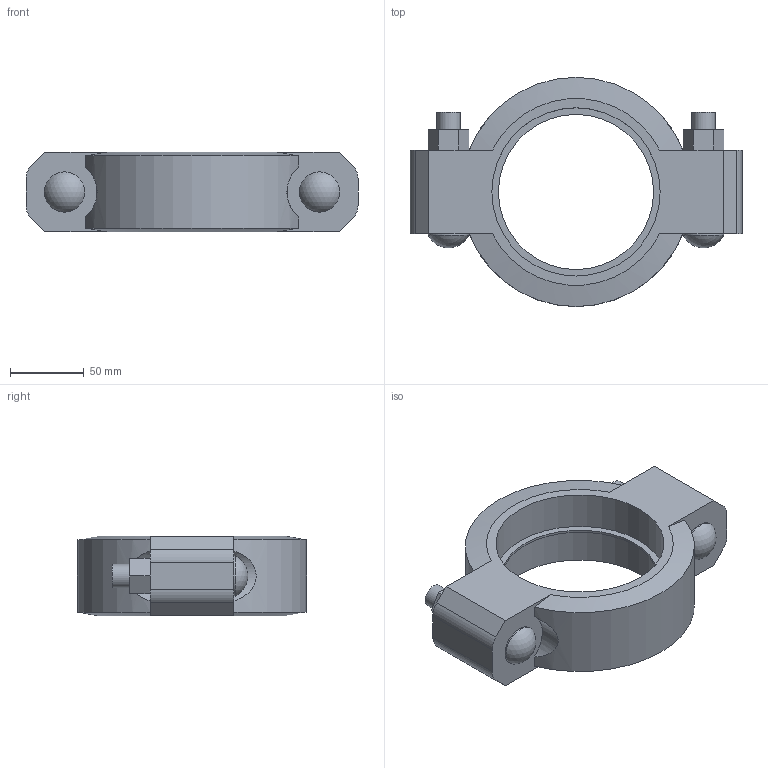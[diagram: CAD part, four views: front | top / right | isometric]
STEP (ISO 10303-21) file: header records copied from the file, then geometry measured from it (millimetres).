
FILE_DESCRIPTION(/* description */ ('Victaulic Standard Flexible Coupling Style 77','CAx-IF Rec.Pracs.---Representation and Presentation of Product Manufacturing Information (PMI)---4.0---2014-10-13'),/* implementation_level */ '2;1');
FILE_NAME(/* name */ 'C:\Users\Vjadhav\Desktop\CAD for Inventor\1\Coupling bolt thickness\77\Victaulic_IPS_Coupling Flexible_Style 77 (OGS)\Victaulic_IPS_Coupling Flexible_Style 77 (OGS)_4 (100).stp',/* time_stamp */ '2022-03-24T18:20:12+06:00',/* author */ ('CONSTRUCTION PIPING SERVICES'),/* organization */ ('Victaulic'),/* preprocessor_version */ 'ST-DEVELOPER v17.2',/* originating_system */ 'Autodesk Inventor 2019',/* authorisation */ '');
FILE_SCHEMA (('AP242_MANAGED_MODEL_BASED_3D_ENGINEERING_MIM_LF { 1 0 10303 442 1 1 4 }'));
Length unit declared in the file: inch
Products named in the file (1): 077-04.0
Bounding box: 225.55 x 155.7 x 54.1 mm (x, y, z)
Volume: 687182.6 mm3; surface area: 96175.4 mm2
Topology: 1 solids, 3 shells, 61 faces, 142 edges, 95 vertices
Faces by surface type: plane 34, cylinder 21, cone 4, sphere 2
Full cylindrical faces by diameter (mm): 15.875 x4, 17.424 x2, 27.381 x2, 105.41 x1, 114.3 x2
Entity records: 2059 total; most frequent: CARTESIAN_POINT 432, DIRECTION 323, ORIENTED_EDGE 284, EDGE_CURVE 142, AXIS2_PLACEMENT_3D 118, VERTEX_POINT 95, LINE 87, VECTOR 87
